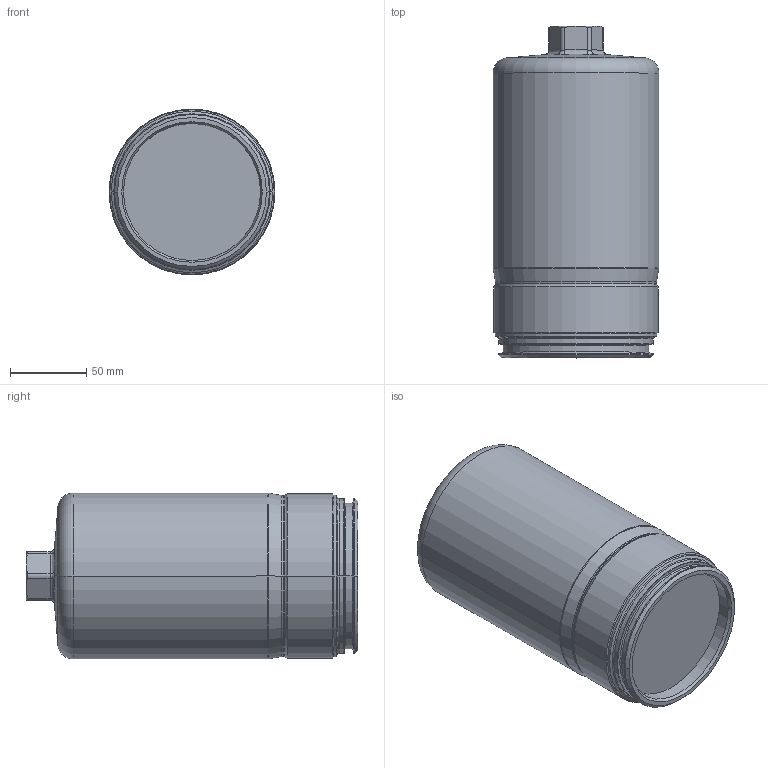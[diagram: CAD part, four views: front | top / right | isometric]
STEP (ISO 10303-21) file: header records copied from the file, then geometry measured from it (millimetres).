
FILE_DESCRIPTION((''),'2;1');
FILE_NAME('14534300_201665','2019-07-04T',('c.kretz'),(''),'PRO/ENGINEER BY PARAMETRIC TECHNOLOGY CORPORATION, 2015110','PRO/ENGINEER BY PARAMETRIC TECHNOLOGY CORPORATION, 2015110','');
FILE_SCHEMA(('AUTOMOTIVE_DESIGN { 1 0 10303 214 1 1 1 1 }'));
Length unit declared in the file: millimetre
Products named in the file (1): 14534300_201665
Bounding box: 109 x 218 x 109 mm (x, y, z)
Volume: 1757940 mm3; surface area: 89538.8 mm2
Topology: 1 solids, 1 shells, 90 faces, 193 edges, 109 vertices
Faces by surface type: torus 22, cylinder 22, cone 21, bspline 13, plane 12
Entity records: 3946 total; most frequent: CARTESIAN_POINT 957, ORIENTED_EDGE 386, DIRECTION 375, PRESENTATION_STYLE_ASSIGNMENT 194, STYLED_ITEM 194, CURVE_STYLE 193, EDGE_CURVE 193, AXIS2_PLACEMENT_3D 166
